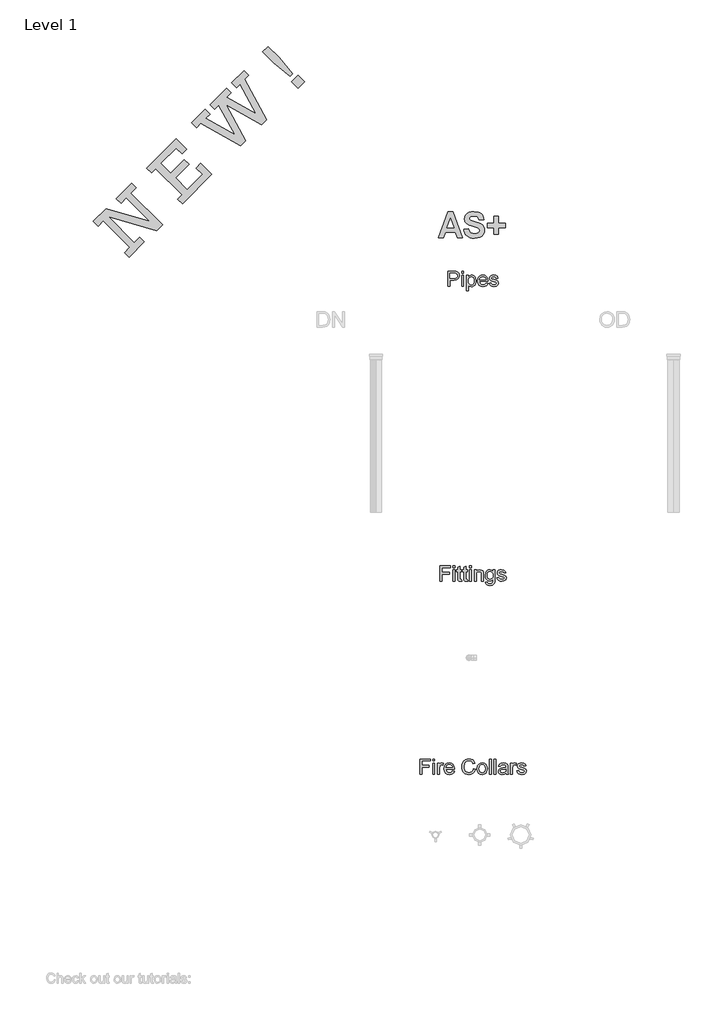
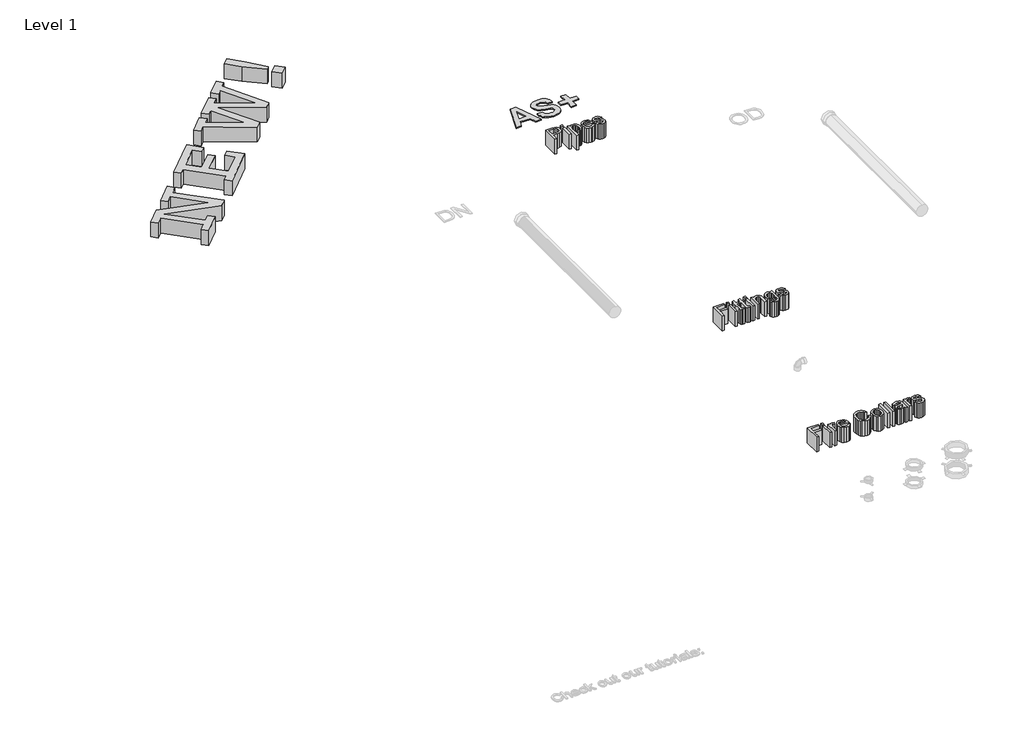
# One storey, part 2 of 2: 5 proxies.
"""IFC4 building model written with IfcOpenShell, lengths in millimetres."""

from ifc_helpers import new_model, si_unit, origin, origin_with_axes, place, context, project, spatial, polyline, outline, extrude, element, save

model = new_model("IFC4")

# Units and contexts
model_context = context("Model", 3, world=origin())
ifc_project = project(units=[si_unit("LENGTHUNIT", "METRE", prefix="MILLI")], contexts=[model_context])

# Site, building, storey
site = spatial("IfcSite", under=ifc_project)
building = spatial("IfcBuilding", under=site)
storey = spatial("IfcBuildingStorey", under=building, Name="Level 1", Elevation=0.0)

# Proxies
placement = place(None, origin())
element("IfcBuildingElementProxy", 1, Name="Rockwell 500", ObjectType="Rockwell 500", at=placement, inside=storey, context=model_context, shape_type="SweptSolid", body=[
    extrude(outline(polyline([(9707.8122685, 7788.6956001), (9447.5535437, 8048.9543249), (9395.5017988, 7996.9025799), (9349.233581, 8043.1707977), (9473.2179458, 8167.1551624), (9902.4641064, 8045.1588852), (9673.1111052, 8274.5118864), (9621.0593603, 8222.4601414), (9574.7911425, 8268.7283592), (9725.1628502, 8419.1000668), (9771.4310679, 8372.8318491), (9719.379323, 8320.7801041), (10031.6897927, 8008.4696344), (9975.842608, 7952.6224497), (9501.4126409, 8087.6316632), (9754.0804863, 7834.9638178), (9806.1322312, 7887.0155628), (9852.400449, 7840.7473451), (9702.0287413, 7690.3756374), (9655.7605236, 7736.6438552), (9707.8122685, 7788.6956001)])), origin_with_axes(), (0.0, 0.0, 1.0), 150.0),
    extrude(outline(polyline([(10222.5461909, 8303.4295225), (9962.2874661, 8563.6882473), (9921.8027756, 8523.2035567), (9875.5345578, 8569.4717745), (10164.7109187, 8858.6481353), (10268.8144086, 8754.5446454), (10222.5461909, 8708.2764277), (10164.7109187, 8766.1116999), (10014.339211, 8615.7399922), (10112.6591737, 8517.4200295), (10245.6802997, 8650.4411555), (10291.9485175, 8604.1729378), (10158.9273915, 8471.1518118), (10274.5979358, 8355.4812674), (10424.9696435, 8505.8529751), (10361.3508441, 8569.4717745), (10407.6190618, 8615.7399922), (10517.506079, 8505.8529751), (10228.3297181, 8216.6766142), (10182.0615004, 8262.9448319), (10222.5461909, 8303.4295225)])), origin_with_axes(), (0.0, 0.0, 1.0), 150.0),
    extrude(outline(polyline([(10800.7181774, 8789.0650735), (10407.6190618, 9009.019843), (10367.1343713, 8968.5351525), (10320.8661536, 9014.8033702), (10453.8872796, 9147.8244962), (10500.1554973, 9101.5562785), (10456.0561023, 9057.4568834), (10746.9494478, 8895.2470185), (10586.5469351, 9187.9477163), (10546.4237151, 9147.8244962), (10500.1554973, 9194.092714), (10662.0942594, 9356.0314761), (10708.3624771, 9309.7632583), (10665.5282287, 9266.9290099), (10955.1564276, 9103.4539983), (10794.753915, 9396.1546961), (10760.4142221, 9361.8150033), (10714.1460044, 9408.083221), (10835.6000759, 9529.5372926), (10881.8682937, 9483.2690748), (10841.3836031, 9442.7843843), (11058.9888147, 9047.3357108), (11008.8347896, 8997.1816857), (10657.1240407, 9193.2794054), (10849.6974235, 8838.0443196), (10800.7181774, 8789.0650735)])), origin_with_axes(), (0.0, 0.0, 1.0), 150.0),
    extrude(outline(polyline([(11314.2773208, 9499.2641423), (11288.0707131, 9473.0575346), (11126.8548919, 9608.4282185), (11020.6729469, 9714.6101635), (11072.7246918, 9766.6619085), (11178.9066369, 9660.4799635), (11314.2773208, 9499.2641423)])), origin_with_axes(), (0.0, 0.0, 1.0), 150.0),
    extrude(outline(polyline([(11367.6845799, 9356.0314761), (11304.0657805, 9419.6502754), (11367.6845799, 9483.2690748), (11431.3033793, 9419.6502754), (11367.6845799, 9356.0314761)])), origin_with_axes(), (0.0, 0.0, 1.0), 150.0),
])
element("IfcBuildingElementProxy", 2, Name="Arial 150", ObjectType="Arial 150", at=placement, inside=storey, context=model_context, shape_type="SweptSolid", body=[
    extrude(outline(polyline([(12846.3359435, 7402.0474987), (12846.3359435, 7552.7319639), (12902.1804304, 7552.7319639), (12924.6948085, 7551.2972242), (12942.9969378, 7544.252284), (12954.8611321, 7529.684157), (12959.3492924, 7509.1379475), (12956.3188645, 7491.3784442), (12947.2275807, 7476.5803909), (12930.226834, 7466.5923948), (12903.4680174, 7463.2630627), (12865.1715017, 7463.2630627), (12865.1715017, 7402.0474987), (12846.3359435, 7402.0474987)]), holes=[polyline([(12865.1715017, 7482.0986209), (12904.5716634, 7482.0986209), (12921.2735059, 7483.8276663), (12932.3099658, 7489.0148024), (12938.4627922, 7497.3381325), (12940.5137343, 7508.4757599), (12935.6760861, 7524.0739565), (12922.9657631, 7532.6088188), (12904.130205, 7533.8964058), (12865.1715017, 7533.8964058), (12865.1715017, 7482.0986209)])]), origin_with_axes(), (0.0, 0.0, 1.0), 150.0),
    extrude(outline(polyline([(12982.8937401, 7402.0474987), (12982.8937401, 7512.7064029), (13001.7292983, 7512.7064029), (13001.7292983, 7402.0474987), (12982.8937401, 7402.0474987)])), origin_with_axes(), (0.0, 0.0, 1.0), 150.0),
    extrude(outline(polyline([(12982.8937401, 7533.8964058), (12982.8937401, 7552.7319639), (13001.7292983, 7552.7319639), (13001.7292983, 7533.8964058), (12982.8937401, 7533.8964058)])), origin_with_axes(), (0.0, 0.0, 1.0), 150.0),
    extrude(outline(polyline([(13029.9826355, 7359.6674929), (13029.9826355, 7512.7064029), (13048.8181937, 7512.7064029), (13048.8181937, 7494.2387267), (13061.8412163, 7509.8553174), (13079.4259757, 7515.0608476), (13092.1638898, 7513.2398318), (13103.3015172, 7507.7767841), (13112.3698083, 7499.0027986), (13118.8997138, 7487.2489688), (13124.1604263, 7458.2230794), (13122.6751027, 7442.1144465), (13118.2191321, 7427.7072679), (13110.9350686, 7415.7327089), (13100.9654665, 7406.9219352), (13089.354191, 7401.5002743), (13077.1451073, 7399.693054), (13060.7559644, 7404.5307022), (13048.8181937, 7416.7627785), (13048.8181937, 7359.6674929), (13029.9826355, 7359.6674929)]), holes=[polyline([(13048.8181937, 7456.494034), (13050.8553402, 7439.6082504), (13056.9667799, 7427.7992384), (13065.9844873, 7420.8462687), (13076.7404371, 7418.5286121), (13087.6711309, 7420.9290421), (13096.9187645, 7428.1303322), (13103.2233422, 7440.3716056), (13105.3248681, 7457.8919856), (13103.273926, 7474.6857987), (13097.1210996, 7486.6603576), (13088.1171878, 7493.8340565), (13077.5129893, 7496.2252895), (13066.8674041, 7493.6823052), (13057.5186029, 7486.0533523), (13050.993296, 7473.5775542), (13048.8181937, 7456.494034)])]), origin_with_axes(), (0.0, 0.0, 1.0), 150.0),
    extrude(outline(polyline([(13222.8263774, 7435.0097255), (13241.2940535, 7432.6552807), (13234.639988, 7418.7401443), (13224.0219939, 7408.3382808), (13209.6791946, 7401.8543607), (13191.8507134, 7399.693054), (13169.7502025, 7403.4224577), (13152.7448573, 7414.6106689), (13141.9015355, 7432.5311205), (13138.2870949, 7456.4572458), (13141.9383237, 7481.1881129), (13152.8920101, 7499.6833802), (13169.6674291, 7511.2164808), (13190.7838556, 7515.0608476), (13211.2426931, 7511.2256778), (13227.5904492, 7499.7201684), (13238.3096109, 7481.2616893), (13241.8826647, 7456.5676104), (13241.7723001, 7451.4908389), (13157.1226531, 7451.4908389), (13160.3830072, 7437.3917614), (13167.9567778, 7427.0266862), (13178.8874716, 7420.6531306), (13192.2185954, 7418.5286121), (13210.6862716, 7422.4649495), (13222.8263774, 7435.0097255)]), holes=[polyline([(13157.1226531, 7470.326397), (13223.0471066, 7470.326397), (13220.4995238, 7480.277605), (13215.5055257, 7487.3961216), (13204.5242481, 7494.0179975), (13190.7102792, 7496.2252895), (13178.0137519, 7494.4640544), (13167.5153194, 7489.1803493), (13160.2174603, 7480.9443911), (13157.1226531, 7470.326397)])]), origin_with_axes(), (0.0, 0.0, 1.0), 150.0),
    extrude(outline(polyline([(13253.6548886, 7435.0097255), (13272.4904467, 7437.3641703), (13275.4610939, 7429.3075546), (13281.20925, 7423.3846544), (13301.1852424, 7418.5286121), (13320.3886825, 7422.9799842), (13326.6426764, 7433.4278329), (13325.0699809, 7438.228693), (13320.3518943, 7441.8891188), (13300.9645132, 7447.2601959), (13272.6008113, 7456.4756399), (13260.2215822, 7467.2361883), (13256.0093334, 7482.4297147), (13259.3938477, 7496.4644128), (13268.6276858, 7507.1881729), (13280.6022447, 7512.7615852), (13296.8074466, 7515.0608476), (13319.7264949, 7511.3636336), (13334.2946219, 7501.3572433), (13340.769345, 7484.4530656), (13321.9337869, 7482.0986209), (13314.8520585, 7492.4912872), (13298.2789746, 7496.2252895), (13280.2527568, 7492.6568341), (13274.8448915, 7484.342701), (13277.0889717, 7478.8612593), (13284.1155178, 7474.7041928), (13300.3391138, 7470.694279), (13327.9854457, 7461.8283229), (13340.8245273, 7451.7851445), (13345.4782346, 7435.4143957), (13340.015187, 7417.3881779), (13324.2514435, 7404.309973), (13300.927725, 7399.693054), (13281.935817, 7401.91874), (13268.0758628, 7408.5957982), (13258.8236306, 7419.6506522), (13253.6548886, 7435.0097255)])), origin_with_axes(), (0.0, 0.0, 1.0), 150.0),
])
element("IfcBuildingElementProxy", 3, Name="Arial 150", ObjectType="Arial 150", at=placement, inside=storey, context=model_context, shape_type="SweptSolid", body=[
    extrude(outline(polyline([(12769.8164885, 4497.7477862), (12769.8164885, 4648.4322515), (12871.0576136, 4648.4322515), (12871.0576136, 4629.5966933), (12788.6520467, 4629.5966933), (12788.6520467, 4584.8622427), (12859.2853898, 4584.8622427), (12859.2853898, 4566.0266845), (12788.6520467, 4566.0266845), (12788.6520467, 4497.7477862), (12769.8164885, 4497.7477862)])), origin_with_axes(), (0.0, 0.0, 1.0), 150.0),
    extrude(outline(polyline([(12894.6020613, 4497.7477862), (12894.6020613, 4608.4066904), (12913.4376194, 4608.4066904), (12913.4376194, 4497.7477862), (12894.6020613, 4497.7477862)])), origin_with_axes(), (0.0, 0.0, 1.0), 150.0),
    extrude(outline(polyline([(12894.6020613, 4629.5966933), (12894.6020613, 4648.4322515), (12913.4376194, 4648.4322515), (12913.4376194, 4629.5966933), (12894.6020613, 4629.5966933)])), origin_with_axes(), (0.0, 0.0, 1.0), 150.0),
    extrude(outline(polyline([(12981.7165178, 4513.4563474), (12984.0709625, 4497.1959632), (12969.9810821, 4495.3933415), (12954.1989445, 4498.5203384), (12946.3262698, 4506.7241069), (12944.0454014, 4528.0980508), (12944.0454014, 4589.5711322), (12929.9187328, 4589.5711322), (12929.9187328, 4608.4066904), (12944.0454014, 4608.4066904), (12944.0454014, 4635.2988642), (12962.8809596, 4646.3721123), (12962.8809596, 4608.4066904), (12981.7165178, 4608.4066904), (12981.7165178, 4589.5711322), (12962.8809596, 4589.5711322), (12962.8809596, 4528.6498738), (12963.874241, 4518.9377892), (12967.0932084, 4515.4980925), (12973.5127493, 4514.2288996), (12981.7165178, 4513.4563474)])), origin_with_axes(), (0.0, 0.0, 1.0), 150.0),
    extrude(outline(polyline([(13040.577637, 4513.4563474), (13042.9320817, 4497.1959632), (13028.8422013, 4495.3933415), (13013.0600637, 4498.5203384), (13005.187389, 4506.7241069), (13002.9065207, 4528.0980508), (13002.9065207, 4589.5711322), (12988.7798521, 4589.5711322), (12988.7798521, 4608.4066904), (13002.9065207, 4608.4066904), (13002.9065207, 4635.2988642), (13021.7420788, 4646.3721123), (13021.7420788, 4608.4066904), (13040.577637, 4608.4066904), (13040.577637, 4589.5711322), (13021.7420788, 4589.5711322), (13021.7420788, 4528.6498738), (13022.7353602, 4518.9377892), (13025.9543277, 4515.4980925), (13032.3738685, 4514.2288996), (13040.577637, 4513.4563474)])), origin_with_axes(), (0.0, 0.0, 1.0), 150.0),
    extrude(outline(polyline([(13059.4131951, 4629.5966933), (13059.4131951, 4648.4322515), (13078.2487533, 4648.4322515), (13078.2487533, 4629.5966933), (13059.4131951, 4629.5966933)])), origin_with_axes(), (0.0, 0.0, 1.0), 150.0),
    extrude(outline(polyline([(13059.4131951, 4497.7477862), (13059.4131951, 4608.4066904), (13078.2487533, 4608.4066904), (13078.2487533, 4497.7477862), (13059.4131951, 4497.7477862)])), origin_with_axes(), (0.0, 0.0, 1.0), 150.0),
    extrude(outline(polyline([(13106.5020905, 4497.7477862), (13106.5020905, 4608.4066904), (13125.3376487, 4608.4066904), (13125.3376487, 4592.9556466), (13139.7402288, 4606.309763), (13159.4035214, 4610.7611352), (13177.1906159, 4607.1742857), (13189.3307217, 4597.7565066), (13194.9777104, 4583.9057495), (13195.9709917, 4565.6955907), (13195.9709917, 4497.7477862), (13177.1354336, 4497.7477862), (13177.1354336, 4563.157205), (13174.9649298, 4579.8222594), (13167.2945902, 4588.6330331), (13154.3635381, 4591.925577), (13143.3316768, 4590.07697), (13133.9276933, 4584.5311489), (13127.4851598, 4573.8165858), (13125.3376487, 4556.4617527), (13125.3376487, 4497.7477862), (13106.5020905, 4497.7477862)])), origin_with_axes(), (0.0, 0.0, 1.0), 150.0),
    extrude(outline(polyline([(13217.1609947, 4488.3300072), (13235.9965528, 4485.9755624), (13242.1033939, 4476.0427485), (13260.3871291, 4471.8488938), (13279.6641456, 4476.5945715), (13288.8611955, 4489.9118997), (13290.1487825, 4511.8744549), (13276.8866366, 4501.2794534), (13260.7182229, 4497.7477862), (13241.2986521, 4501.8588675), (13226.817897, 4514.1921114), (13217.8093867, 4532.2735115), (13214.8065499, 4553.6290613), (13220.1960211, 4582.8204976), (13226.7903059, 4594.6708964), (13235.7942177, 4603.4770717), (13246.8996555, 4608.9401193), (13259.7985179, 4610.7611352), (13276.601528, 4606.6408568), (13290.1487825, 4594.2800218), (13290.1487825, 4608.4066904), (13308.9843407, 4608.4066904), (13308.9843407, 4512.8677362), (13307.6967537, 4490.8086121), (13303.8339927, 4476.2818718), (13297.1799271, 4466.6479621), (13287.5184262, 4459.2673295), (13275.0610222, 4454.5768341), (13260.0192471, 4453.0133356), (13242.4942686, 4455.2160291), (13228.6940952, 4461.8241094), (13219.8419347, 4472.8559707), (13217.1609947, 4488.3300072)]), holes=[polyline([(13233.642108, 4554.9166483), (13235.6516634, 4537.6399901), (13241.6803296, 4525.7620002), (13250.7440223, 4518.8780083), (13261.8586571, 4516.5833444), (13272.8905184, 4518.8642128), (13282.0001963, 4525.7068179), (13288.111636, 4537.4330565), (13290.1487825, 4554.3648253), (13288.0518551, 4570.6941874), (13281.761073, 4582.4526156), (13272.5180379, 4589.5573367), (13261.5643515, 4591.925577), (13250.8084016, 4589.5941249), (13241.7906942, 4582.5997684), (13235.6792546, 4571.0160841), (13233.642108, 4554.9166483)])]), origin_with_axes(), (0.0, 0.0, 1.0), 150.0),
    extrude(outline(polyline([(13330.1743436, 4530.710013), (13349.0099017, 4533.0644578), (13351.9805488, 4525.0078421), (13357.728705, 4519.084942), (13377.7046974, 4514.2288996), (13396.9081375, 4518.6802718), (13403.1621314, 4529.1281204), (13401.5894359, 4533.9289805), (13396.8713493, 4537.5894063), (13377.4839682, 4542.9604834), (13349.1202663, 4552.1759274), (13336.7410372, 4562.9364758), (13332.5287884, 4578.1300022), (13335.9133027, 4592.1647003), (13345.1471408, 4602.8884605), (13357.1216997, 4608.4618727), (13373.3269016, 4610.7611352), (13396.2459499, 4607.0639211), (13410.8140769, 4597.0575308), (13417.2888, 4580.1533532), (13398.4532419, 4577.7989084), (13391.3715135, 4588.1915748), (13374.7984296, 4591.925577), (13356.7722118, 4588.3571217), (13351.3643465, 4580.0429886), (13353.6084267, 4574.5615468), (13360.6349728, 4570.4044803), (13376.8585688, 4566.3945665), (13404.5049007, 4557.5286105), (13417.3439823, 4547.485432), (13421.9976896, 4531.1146832), (13416.534642, 4513.0884654), (13400.7708985, 4500.0102605), (13377.44718, 4495.3933415), (13358.455272, 4497.6190275), (13344.5953178, 4504.2960858), (13335.3430856, 4515.3509397), (13330.1743436, 4530.710013)])), origin_with_axes(), (0.0, 0.0, 1.0), 150.0),
])
element("IfcBuildingElementProxy", 4, Name="Arial 150", ObjectType="Arial 150", at=placement, inside=storey, context=model_context, shape_type="SweptSolid", body=[
    extrude(outline(polyline([(12572.0431279, 2593.4480738), (12572.0431279, 2744.132539), (12673.284253, 2744.132539), (12673.284253, 2725.2969808), (12590.8786861, 2725.2969808), (12590.8786861, 2680.5625302), (12661.5120292, 2680.5625302), (12661.5120292, 2661.7269721), (12590.8786861, 2661.7269721), (12590.8786861, 2593.4480738), (12572.0431279, 2593.4480738)])), origin_with_axes(), (0.0, 0.0, 1.0), 150.0),
    extrude(outline(polyline([(12696.8287007, 2593.4480738), (12696.8287007, 2704.1069779), (12715.6642588, 2704.1069779), (12715.6642588, 2593.4480738), (12696.8287007, 2593.4480738)])), origin_with_axes(), (0.0, 0.0, 1.0), 150.0),
    extrude(outline(polyline([(12696.8287007, 2725.2969808), (12696.8287007, 2744.132539), (12715.6642588, 2744.132539), (12715.6642588, 2725.2969808), (12696.8287007, 2725.2969808)])), origin_with_axes(), (0.0, 0.0, 1.0), 150.0),
    extrude(outline(polyline([(12743.9175961, 2593.4480738), (12743.9175961, 2704.1069779), (12760.3987095, 2704.1069779), (12760.3987095, 2687.7362291), (12772.0973569, 2702.8193909), (12783.8695807, 2706.4614227), (12802.7787153, 2700.6488871), (12796.4879332, 2683.7631036), (12783.2441814, 2687.6258645), (12772.5939976, 2683.9102564), (12765.8065748, 2673.6095605), (12762.7531542, 2651.6102172), (12762.7531542, 2593.4480738), (12743.9175961, 2593.4480738)])), origin_with_axes(), (0.0, 0.0, 1.0), 150.0),
    extrude(outline(polyline([(12892.0268873, 2626.4103005), (12910.4945635, 2624.0558558), (12903.8404979, 2610.1407193), (12893.2225038, 2599.7388559), (12878.8797045, 2593.2549357), (12861.0512233, 2591.093629), (12838.9507125, 2594.8230327), (12821.9453672, 2606.0112439), (12811.1020454, 2623.9316956), (12807.4876048, 2647.8578208), (12811.1388336, 2672.588688), (12822.09252, 2691.0839553), (12838.867939, 2702.6170558), (12859.9843655, 2706.4614227), (12880.443203, 2702.6262529), (12896.7909592, 2691.1207435), (12907.5101208, 2672.6622644), (12911.0831747, 2647.9681854), (12910.9728101, 2642.8914139), (12826.323163, 2642.8914139), (12829.5835172, 2628.7923364), (12837.1572877, 2618.4272612), (12848.0879815, 2612.0537057), (12861.4191053, 2609.9291871), (12879.8867815, 2613.8655245), (12892.0268873, 2626.4103005)]), holes=[polyline([(12826.323163, 2661.7269721), (12892.2476165, 2661.7269721), (12889.7000337, 2671.67818), (12884.7060356, 2678.7966966), (12873.7247581, 2685.4185725), (12859.9107891, 2687.6258645), (12847.2142618, 2685.8646295), (12836.7158294, 2680.5809243), (12829.4179703, 2672.3449661), (12826.323163, 2661.7269721)])]), origin_with_axes(), (0.0, 0.0, 1.0), 150.0),
    extrude(outline(polyline([(13097.0843114, 2647.0116923), (13115.9198696, 2642.1556499), (13107.2286575, 2620.2068904), (13093.5894325, 2604.1718339), (13075.6735793, 2594.3631802), (13054.1524826, 2591.093629), (13032.3048906, 2593.5676354), (13014.954656, 2600.9896547), (13001.6557219, 2613.1021693), (12991.9620313, 2629.6476621), (12986.0437297, 2649.0994226), (12984.0709625, 2669.9307405), (12986.3012471, 2691.9024927), (12992.9921009, 2710.8760066), (13003.794036, 2726.2488755), (13018.3575645, 2737.4186926), (13035.6296241, 2744.219911), (13054.5571528, 2746.4869837), (13075.2091283, 2743.5531248), (13092.2834514, 2734.7515481), (13105.2466932, 2720.6248795), (13113.5654248, 2701.7157449), (13094.7298667, 2697.2275846), (13088.1999613, 2710.9633786), (13079.2788229, 2720.3857562), (13067.8560869, 2725.8350082), (13053.8213888, 2727.6514256), (13037.6437781, 2725.6372717), (13024.354041, 2719.5948099), (13014.2694758, 2710.1586367), (13007.7073807, 2697.9633486), (13002.9065207, 2669.9675287), (13004.3274649, 2652.5667104), (13008.5902975, 2637.5203368), (13015.8559669, 2625.4032236), (13026.2854215, 2616.7901863), (13038.7888108, 2611.6444369), (13052.2762844, 2609.9291871), (13067.9986412, 2612.2652378), (13081.0998387, 2619.2733898), (13090.9912659, 2630.8800668), (13097.0843114, 2647.0116923)])), origin_with_axes(), (0.0, 0.0, 1.0), 150.0),
    extrude(outline(polyline([(13134.7554277, 2648.7775258), (13138.8297208, 2675.4581675), (13151.0526001, 2694.2109522), (13166.154156, 2703.3988051), (13184.2355561, 2706.4614227), (13204.0230089, 2702.7320189), (13219.8281391, 2691.5438078), (13230.1886158, 2673.7797059), (13233.642108, 2650.3226302), (13232.1153978, 2631.293934), (13227.5352669, 2616.8085804), (13220.0350728, 2605.9606601), (13209.7481725, 2597.8442636), (13197.5298917, 2592.7812876), (13184.2355561, 2591.093629), (13164.20898, 2594.8092371), (13148.4222439, 2605.9560616), (13138.1721318, 2624.092644), (13134.7554277, 2648.7775258)]), holes=[polyline([(13153.5909859, 2648.814314), (13155.7706867, 2631.7675821), (13162.3097892, 2619.6228777), (13172.1506326, 2612.3526098), (13184.2355561, 2609.9291871), (13196.2652973, 2612.3664054), (13206.0877466, 2619.67806), (13212.6268491, 2631.9837127), (13214.8065499, 2649.4029252), (13212.6130535, 2665.9530165), (13206.0325643, 2677.9321739), (13196.1963195, 2685.2024419), (13184.2355561, 2687.6258645), (13172.1506326, 2685.2116389), (13162.3097892, 2677.9689621), (13155.7706867, 2665.8518489), (13153.5909859, 2648.814314)])]), origin_with_axes(), (0.0, 0.0, 1.0), 150.0),
    extrude(outline(polyline([(13254.832111, 2593.4480738), (13254.832111, 2744.132539), (13273.6676691, 2744.132539), (13273.6676691, 2593.4480738), (13254.832111, 2593.4480738)])), origin_with_axes(), (0.0, 0.0, 1.0), 150.0),
    extrude(outline(polyline([(13301.9210064, 2593.4480738), (13301.9210064, 2744.132539), (13320.7565645, 2744.132539), (13320.7565645, 2593.4480738), (13301.9210064, 2593.4480738)])), origin_with_axes(), (0.0, 0.0, 1.0), 150.0),
    extrude(outline(polyline([(13419.6432448, 2607.5747424), (13401.3779038, 2594.8092371), (13381.1995763, 2591.093629), (13365.4588254, 2593.3285121), (13353.84755, 2600.0331615), (13346.6876466, 2610.2142957), (13344.3010122, 2622.8786334), (13347.9062558, 2637.7778542), (13357.3792171, 2648.5935848), (13370.5677867, 2654.7740023), (13386.864959, 2657.6066937), (13419.5328802, 2664.0814168), (13419.6432448, 2668.2752716), (13418.3464608, 2676.6813752), (13414.4561087, 2682.181211), (13405.7556995, 2686.2647011), (13393.6339878, 2687.6258645), (13374.5777004, 2684.0022269), (13365.4910151, 2671.1447511), (13346.655457, 2673.4991959), (13354.8040432, 2691.8932957), (13371.2115801, 2702.6722381), (13396.0620089, 2706.4614227), (13418.8890867, 2703.1136965), (13431.7833507, 2694.7075929), (13437.559098, 2681.9236936), (13438.478803, 2665.4425802), (13438.478803, 2642.0084971), (13439.4352962, 2609.2853936), (13443.1876925, 2593.4480738), (13424.3521343, 2593.4480738), (13419.6432448, 2607.5747424)]), holes=[polyline([(13419.6432448, 2645.2458587), (13389.256192, 2639.4701113), (13373.0509901, 2636.4166908), (13365.7117443, 2631.4502839), (13363.1365704, 2624.2030085), (13368.7467708, 2614.0126773), (13385.2094901, 2609.9291871), (13404.2657774, 2614.4357416), (13416.5530361, 2625.3434427), (13419.5328802, 2639.9115697), (13419.6432448, 2645.2458587)])]), origin_with_axes(), (0.0, 0.0, 1.0), 150.0),
    extrude(outline(polyline([(13464.3776954, 2593.4480738), (13464.3776954, 2704.1069779), (13480.8588088, 2704.1069779), (13480.8588088, 2687.7362291), (13492.5574563, 2702.8193909), (13504.3296801, 2706.4614227), (13523.2388147, 2700.6488871), (13516.9480325, 2683.7631036), (13503.7042807, 2687.6258645), (13493.0540969, 2683.9102564), (13486.2666741, 2673.6095605), (13483.2132536, 2651.6102172), (13483.2132536, 2593.4480738), (13464.3776954, 2593.4480738)])), origin_with_axes(), (0.0, 0.0, 1.0), 150.0),
    extrude(outline(polyline([(13527.9477042, 2626.4103005), (13546.7832623, 2628.7647453), (13549.7539095, 2620.7081296), (13555.5020656, 2614.7852295), (13575.478058, 2609.9291871), (13594.6814981, 2614.3805593), (13600.935492, 2624.8284079), (13599.3627965, 2629.629268), (13594.6447099, 2633.2896938), (13575.2573288, 2638.660771), (13546.8936269, 2647.8762149), (13534.5143978, 2658.6367633), (13530.302149, 2673.8302897), (13533.6866633, 2687.8649878), (13542.9205014, 2698.588748), (13554.8950603, 2704.1621602), (13571.1002622, 2706.4614227), (13594.0193105, 2702.7642086), (13608.5874375, 2692.7578184), (13615.0621606, 2675.8536407), (13596.2266025, 2673.4991959), (13589.1448741, 2683.8918623), (13572.5717902, 2687.6258645), (13554.5455724, 2684.0574092), (13549.1377071, 2675.7432761), (13551.3817873, 2670.2618343), (13558.4083334, 2666.1047678), (13574.6319294, 2662.0948541), (13602.2782613, 2653.228898), (13615.1173429, 2643.1857195), (13619.7710502, 2626.8149707), (13614.3080026, 2608.788753), (13598.5442591, 2595.710548), (13575.2205406, 2591.093629), (13556.2286326, 2593.3193151), (13542.3686784, 2599.9963733), (13533.1164462, 2611.0512272), (13527.9477042, 2626.4103005)])), origin_with_axes(), (0.0, 0.0, 1.0), 150.0),
])
element("IfcBuildingElementProxy", 5, Name="Arial 250", ObjectType="Arial 250", at=placement, inside=storey, context=model_context, shape_type="SweptSolid", body=[
    extrude(outline(polyline([(12989.9819892, 7881.3472112), (12938.9310631, 7881.3472112), (12918.9408616, 7938.028289), (12822.5956814, 7938.028289), (12802.8585204, 7881.3472112), (12751.1117329, 7881.3472112), (12844.2306464, 8136.4120612), (12895.9774339, 8136.4120612), (12989.9819892, 7881.3472112)]), holes=[polyline([(12903.3788693, 7982.5634215), (12870.546861, 8075.682335), (12838.1576737, 7982.5634215), (12903.3788693, 7982.5634215)])]), origin_with_axes(), (0.0, 0.0, 1.0), 10.0),
    extrude(outline(polyline([(13002.1279344, 7966.3688279), (13050.7117154, 7970.4174763), (13057.7968501, 7948.6876211), (13069.6897548, 7933.6000798), (13086.4695047, 7924.7752914), (13108.2151749, 7921.8336953), (13130.7832268, 7924.4352682), (13146.9936355, 7932.239987), (13156.7673258, 7943.5240129), (13160.0252225, 7956.5635075), (13154.6164813, 7971.7775691), (13135.6700719, 7982.6899418), (13093.5388244, 7993.5074243), (13057.5754397, 8004.6886525), (13034.2008211, 8018.3686559), (13016.2191287, 8041.6641993), (13010.2252313, 8069.5461023), (13012.977047, 8088.3343613), (13021.2324941, 8105.8574177), (13034.6752721, 8120.7393636), (13052.9890801, 8131.6042912), (13075.8734327, 8138.246605), (13103.0278441, 8140.4607096), (13144.9930338, 8134.9412631), (13161.5335813, 8128.0419551), (13175.1127639, 8118.3829237), (13185.7740729, 8106.4228051), (13193.5609997, 8092.6202352), (13198.4735443, 8076.9752139), (13200.5117067, 8059.4877414), (13151.9279257, 8059.4877414), (13146.558722, 8076.1805085), (13137.2832053, 8087.4170894), (13123.2473636, 8093.7984552), (13103.5971853, 8095.9255771), (13082.9111223, 8093.6640274), (13067.2858698, 8086.8793783), (13060.9282266, 8080.0789141), (13058.8090122, 8071.3173859), (13060.7384462, 8063.0461238), (13066.5267483, 8056.0716943), (13083.3302207, 8047.9032298), (13114.1299972, 8039.4659098), (13147.001543, 8030.6885665), (13170.0203233, 8021.5000324), (13186.1516568, 8010.3741568), (13198.3608622, 7995.784789), (13206.0469682, 7977.5500561), (13208.6090035, 7955.4880853), (13205.5804247, 7934.4224615), (13196.4946883, 7914.7485606), (13181.8657829, 7898.2060362), (13162.2076971, 7886.534542), (13137.3069278, 7879.6075576), (13106.9499722, 7877.2985628), (13084.2474926, 7878.7199389), (13064.3442737, 7882.9840671), (13047.2403157, 7890.0909475), (13032.9356185, 7900.0405801), (13021.3313381, 7912.714352), (13012.3286306, 7927.9936506), (13005.9274961, 7945.8784759), (13002.1279344, 7966.3688279)])), origin_with_axes(), (0.0, 0.0, 1.0), 10.0),
    extrude(outline(polyline([(13301.727917, 7917.7850469), (13301.727917, 7982.5634215), (13236.9495424, 7982.5634215), (13236.9495424, 8027.0985541), (13301.727917, 8027.0985541), (13301.727917, 8091.8769287), (13346.2630495, 8091.8769287), (13346.2630495, 8027.0985541), (13411.0414241, 8027.0985541), (13411.0414241, 7982.5634215), (13346.2630495, 7982.5634215), (13346.2630495, 7917.7850469), (13301.727917, 7917.7850469)])), origin_with_axes(), (0.0, 0.0, 1.0), 10.0),
])

save(model, "model.ifc")
